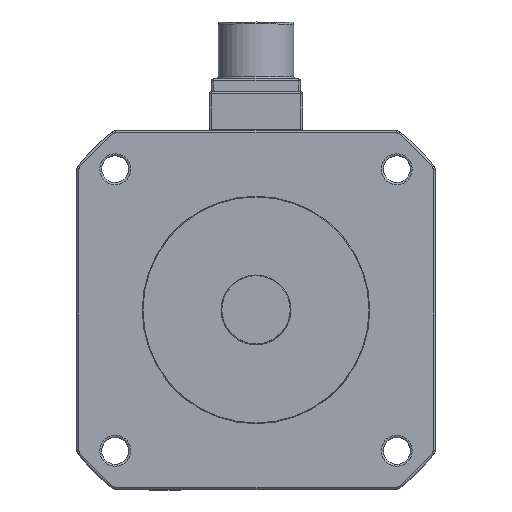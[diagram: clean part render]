
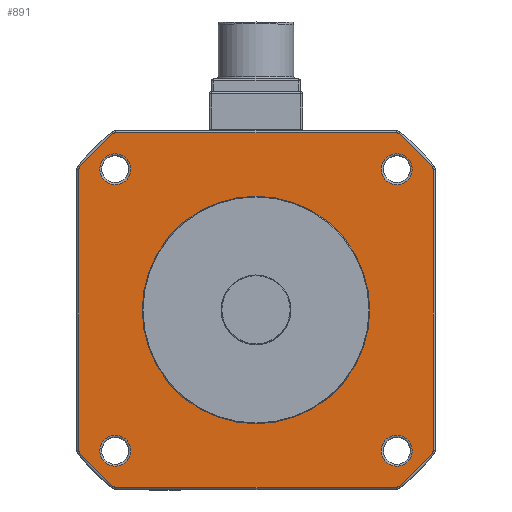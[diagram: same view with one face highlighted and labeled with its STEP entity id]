
A CAD part, top view. The second image highlights one B-rep face of the part: STEP entity #891.
In plain terms, the highlighted planar face has unit normal (0, 0, 1).
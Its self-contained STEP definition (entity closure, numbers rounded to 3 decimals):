
#795=FACE_BOUND('',#2148,.T.);
#796=FACE_BOUND('',#2149,.T.);
#797=FACE_BOUND('',#2150,.T.);
#798=FACE_BOUND('',#2151,.T.);
#799=FACE_BOUND('',#2152,.T.);
#800=FACE_BOUND('',#2153,.T.);
#891=ADVANCED_FACE('',(#795,#796,#797,#798,#799,#800),#1490,.F.);
#1490=PLANE('',#9349);
#2148=EDGE_LOOP('',(#3827,#3828,#3829,#3830,#3831,#3832,#3833,#3834,#3835,
#3836,#3837,#3838,#3839,#3840,#3841,#3842));
#2149=EDGE_LOOP('',(#3843));
#2150=EDGE_LOOP('',(#3844));
#2151=EDGE_LOOP('',(#3845));
#2152=EDGE_LOOP('',(#3846));
#2153=EDGE_LOOP('',(#3847));
#2901=CIRCLE('',#9332,2.);
#2902=CIRCLE('',#9333,114.);
#2903=CIRCLE('',#9334,2.);
#2904=CIRCLE('',#9335,2.);
#2905=CIRCLE('',#9336,114.);
#2906=CIRCLE('',#9337,2.);
#2907=CIRCLE('',#9338,2.);
#2908=CIRCLE('',#9339,114.);
#2909=CIRCLE('',#9340,2.);
#2910=CIRCLE('',#9341,2.);
#2911=CIRCLE('',#9342,114.);
#2912=CIRCLE('',#9343,2.);
#2913=CIRCLE('',#9344,7.75);
#2914=CIRCLE('',#9345,7.75);
#2915=CIRCLE('',#9346,7.75);
#2916=CIRCLE('',#9347,7.75);
#2917=CIRCLE('',#9348,57.15);
#3827=ORIENTED_EDGE('',*,*,#7294,.T.);
#3828=ORIENTED_EDGE('',*,*,#7295,.T.);
#3829=ORIENTED_EDGE('',*,*,#7296,.T.);
#3830=ORIENTED_EDGE('',*,*,#7297,.T.);
#3831=ORIENTED_EDGE('',*,*,#7298,.T.);
#3832=ORIENTED_EDGE('',*,*,#7299,.T.);
#3833=ORIENTED_EDGE('',*,*,#7300,.T.);
#3834=ORIENTED_EDGE('',*,*,#7301,.T.);
#3835=ORIENTED_EDGE('',*,*,#7302,.T.);
#3836=ORIENTED_EDGE('',*,*,#7303,.T.);
#3837=ORIENTED_EDGE('',*,*,#7304,.T.);
#3838=ORIENTED_EDGE('',*,*,#7305,.T.);
#3839=ORIENTED_EDGE('',*,*,#7306,.T.);
#3840=ORIENTED_EDGE('',*,*,#7307,.T.);
#3841=ORIENTED_EDGE('',*,*,#7308,.T.);
#3842=ORIENTED_EDGE('',*,*,#7309,.T.);
#3843=ORIENTED_EDGE('',*,*,#7310,.T.);
#3844=ORIENTED_EDGE('',*,*,#7311,.T.);
#3845=ORIENTED_EDGE('',*,*,#7312,.T.);
#3846=ORIENTED_EDGE('',*,*,#7313,.T.);
#3847=ORIENTED_EDGE('',*,*,#7314,.T.);
#6507=VERTEX_POINT('',#14370);
#6508=VERTEX_POINT('',#14371);
#6509=VERTEX_POINT('',#14373);
#6510=VERTEX_POINT('',#14375);
#6511=VERTEX_POINT('',#14377);
#6512=VERTEX_POINT('',#14379);
#6513=VERTEX_POINT('',#14381);
#6514=VERTEX_POINT('',#14383);
#6515=VERTEX_POINT('',#14385);
#6516=VERTEX_POINT('',#14387);
#6517=VERTEX_POINT('',#14389);
#6518=VERTEX_POINT('',#14391);
#6519=VERTEX_POINT('',#14393);
#6520=VERTEX_POINT('',#14395);
#6521=VERTEX_POINT('',#14397);
#6522=VERTEX_POINT('',#14399);
#6523=VERTEX_POINT('',#14402);
#6524=VERTEX_POINT('',#14404);
#6525=VERTEX_POINT('',#14406);
#6526=VERTEX_POINT('',#14408);
#6527=VERTEX_POINT('',#14410);
#7294=EDGE_CURVE('',#6507,#6508,#8475,.T.);
#7295=EDGE_CURVE('',#6508,#6509,#2901,.T.);
#7296=EDGE_CURVE('',#6509,#6510,#2902,.T.);
#7297=EDGE_CURVE('',#6510,#6511,#2903,.T.);
#7298=EDGE_CURVE('',#6511,#6512,#8476,.T.);
#7299=EDGE_CURVE('',#6512,#6513,#2904,.T.);
#7300=EDGE_CURVE('',#6513,#6514,#2905,.T.);
#7301=EDGE_CURVE('',#6514,#6515,#2906,.T.);
#7302=EDGE_CURVE('',#6515,#6516,#8477,.T.);
#7303=EDGE_CURVE('',#6516,#6517,#2907,.T.);
#7304=EDGE_CURVE('',#6517,#6518,#2908,.T.);
#7305=EDGE_CURVE('',#6518,#6519,#2909,.T.);
#7306=EDGE_CURVE('',#6519,#6520,#8478,.T.);
#7307=EDGE_CURVE('',#6520,#6521,#2910,.T.);
#7308=EDGE_CURVE('',#6521,#6522,#2911,.T.);
#7309=EDGE_CURVE('',#6522,#6507,#2912,.T.);
#7310=EDGE_CURVE('',#6523,#6523,#2913,.T.);
#7311=EDGE_CURVE('',#6524,#6524,#2914,.T.);
#7312=EDGE_CURVE('',#6525,#6525,#2915,.T.);
#7313=EDGE_CURVE('',#6526,#6526,#2916,.T.);
#7314=EDGE_CURVE('',#6527,#6527,#2917,.T.);
#8475=LINE('',#14369,#8870);
#8476=LINE('',#14378,#8871);
#8477=LINE('',#14386,#8872);
#8478=LINE('',#14394,#8873);
#8870=VECTOR('',#10898,1.);
#8871=VECTOR('',#10905,1.);
#8872=VECTOR('',#10912,1.);
#8873=VECTOR('',#10919,1.);
#9332=AXIS2_PLACEMENT_3D('',#14372,#10899,#10900);
#9333=AXIS2_PLACEMENT_3D('',#14374,#10901,#10902);
#9334=AXIS2_PLACEMENT_3D('',#14376,#10903,#10904);
#9335=AXIS2_PLACEMENT_3D('',#14380,#10906,#10907);
#9336=AXIS2_PLACEMENT_3D('',#14382,#10908,#10909);
#9337=AXIS2_PLACEMENT_3D('',#14384,#10910,#10911);
#9338=AXIS2_PLACEMENT_3D('',#14388,#10913,#10914);
#9339=AXIS2_PLACEMENT_3D('',#14390,#10915,#10916);
#9340=AXIS2_PLACEMENT_3D('',#14392,#10917,#10918);
#9341=AXIS2_PLACEMENT_3D('',#14396,#10920,#10921);
#9342=AXIS2_PLACEMENT_3D('',#14398,#10922,#10923);
#9343=AXIS2_PLACEMENT_3D('',#14400,#10924,#10925);
#9344=AXIS2_PLACEMENT_3D('',#14401,#10926,#10927);
#9345=AXIS2_PLACEMENT_3D('',#14403,#10928,#10929);
#9346=AXIS2_PLACEMENT_3D('',#14405,#10930,#10931);
#9347=AXIS2_PLACEMENT_3D('',#14407,#10932,#10933);
#9348=AXIS2_PLACEMENT_3D('',#14409,#10934,#10935);
#9349=AXIS2_PLACEMENT_3D('',#14411,#10936,#10937);
#10898=DIRECTION('',(-1.,0.,0.));
#10899=DIRECTION('',(0.,0.,1.));
#10900=DIRECTION('',(-1.,0.,0.));
#10901=DIRECTION('',(0.,0.,1.));
#10902=DIRECTION('',(-1.,0.,0.));
#10903=DIRECTION('',(0.,0.,1.));
#10904=DIRECTION('',(-1.,0.,0.));
#10905=DIRECTION('',(0.,-1.,0.));
#10906=DIRECTION('',(0.,0.,1.));
#10907=DIRECTION('',(-1.,0.,0.));
#10908=DIRECTION('',(0.,0.,1.));
#10909=DIRECTION('',(-1.,0.,0.));
#10910=DIRECTION('',(0.,0.,1.));
#10911=DIRECTION('',(-1.,0.,0.));
#10912=DIRECTION('',(1.,0.,0.));
#10913=DIRECTION('',(0.,0.,1.));
#10914=DIRECTION('',(-1.,0.,0.));
#10915=DIRECTION('',(0.,0.,1.));
#10916=DIRECTION('',(-1.,0.,0.));
#10917=DIRECTION('',(0.,0.,1.));
#10918=DIRECTION('',(-1.,0.,0.));
#10919=DIRECTION('',(0.,1.,0.));
#10920=DIRECTION('',(0.,0.,1.));
#10921=DIRECTION('',(-1.,0.,0.));
#10922=DIRECTION('',(0.,0.,1.));
#10923=DIRECTION('',(-1.,0.,0.));
#10924=DIRECTION('',(0.,0.,1.));
#10925=DIRECTION('',(-1.,0.,0.));
#10926=DIRECTION('',(0.,0.,-1.));
#10927=DIRECTION('',(-1.,0.,0.));
#10928=DIRECTION('',(0.,0.,-1.));
#10929=DIRECTION('',(-1.,0.,0.));
#10930=DIRECTION('',(0.,0.,-1.));
#10931=DIRECTION('',(-1.,0.,0.));
#10932=DIRECTION('',(0.,0.,-1.));
#10933=DIRECTION('',(-1.,0.,0.));
#10934=DIRECTION('',(0.,0.,-1.));
#10935=DIRECTION('',(1.,0.,0.));
#10936=DIRECTION('',(0.,0.,-1.));
#10937=DIRECTION('',(-1.,0.,0.));
#14369=CARTESIAN_POINT('',(-90.,89.,-3.2));
#14370=CARTESIAN_POINT('',(70.534,89.,-3.2));
#14371=CARTESIAN_POINT('',(-70.534,89.,-3.2));
#14372=CARTESIAN_POINT('',(-70.534,87.,-3.2));
#14373=CARTESIAN_POINT('',(-71.793,88.554,-3.2));
#14374=CARTESIAN_POINT('',(0.,0.,-3.2));
#14375=CARTESIAN_POINT('',(-88.554,71.793,-3.2));
#14376=CARTESIAN_POINT('',(-87.,70.534,-3.2));
#14377=CARTESIAN_POINT('',(-89.,70.534,-3.2));
#14378=CARTESIAN_POINT('',(-89.,90.,-3.2));
#14379=CARTESIAN_POINT('',(-89.,-70.534,-3.2));
#14380=CARTESIAN_POINT('',(-87.,-70.534,-3.2));
#14381=CARTESIAN_POINT('',(-88.554,-71.793,-3.2));
#14382=CARTESIAN_POINT('',(0.,0.,-3.2));
#14383=CARTESIAN_POINT('',(-71.793,-88.554,-3.2));
#14384=CARTESIAN_POINT('',(-70.534,-87.,-3.2));
#14385=CARTESIAN_POINT('',(-70.534,-89.,-3.2));
#14386=CARTESIAN_POINT('',(-90.,-89.,-3.2));
#14387=CARTESIAN_POINT('',(70.534,-89.,-3.2));
#14388=CARTESIAN_POINT('',(70.534,-87.,-3.2));
#14389=CARTESIAN_POINT('',(71.793,-88.554,-3.2));
#14390=CARTESIAN_POINT('',(0.,0.,-3.2));
#14391=CARTESIAN_POINT('',(88.554,-71.793,-3.2));
#14392=CARTESIAN_POINT('',(87.,-70.534,-3.2));
#14393=CARTESIAN_POINT('',(89.,-70.534,-3.2));
#14394=CARTESIAN_POINT('',(89.,90.,-3.2));
#14395=CARTESIAN_POINT('',(89.,70.534,-3.2));
#14396=CARTESIAN_POINT('',(87.,70.534,-3.2));
#14397=CARTESIAN_POINT('',(88.554,71.793,-3.2));
#14398=CARTESIAN_POINT('',(0.,0.,-3.2));
#14399=CARTESIAN_POINT('',(71.793,88.554,-3.2));
#14400=CARTESIAN_POINT('',(70.534,87.,-3.2));
#14401=CARTESIAN_POINT('',(70.711,-70.711,-3.2));
#14402=CARTESIAN_POINT('',(62.961,-70.711,-3.2));
#14403=CARTESIAN_POINT('',(70.711,70.711,-3.2));
#14404=CARTESIAN_POINT('',(62.961,70.711,-3.2));
#14405=CARTESIAN_POINT('',(-70.711,-70.711,-3.2));
#14406=CARTESIAN_POINT('',(-78.461,-70.711,-3.2));
#14407=CARTESIAN_POINT('',(-70.711,70.711,-3.2));
#14408=CARTESIAN_POINT('',(-78.461,70.711,-3.2));
#14409=CARTESIAN_POINT('',(0.,0.,-3.2));
#14410=CARTESIAN_POINT('',(57.15,0.,-3.2));
#14411=CARTESIAN_POINT('',(-90.,90.,-3.2));
